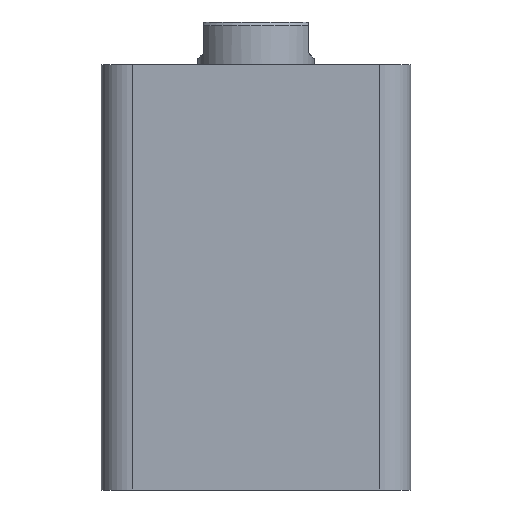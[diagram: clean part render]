
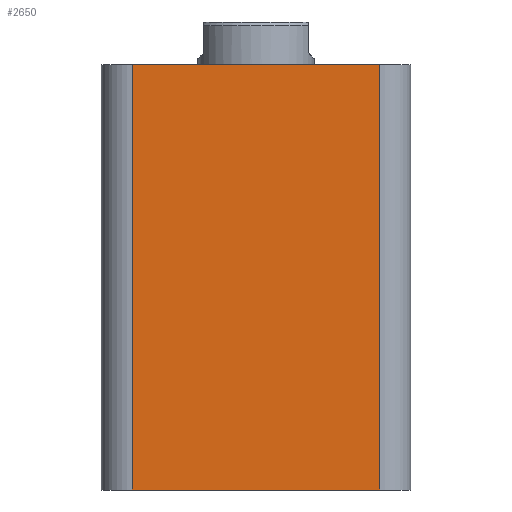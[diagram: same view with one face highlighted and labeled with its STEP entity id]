
A CAD part, front view. The second image highlights one B-rep face of the part: STEP entity #2650.
In plain terms, the highlighted planar face has unit normal (0, -1, 0).
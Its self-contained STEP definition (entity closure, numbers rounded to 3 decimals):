
#63 = EDGE_CURVE ( 'NONE', #876, #1492, #559, .T. ) ;
#64 = EDGE_CURVE ( 'NONE', #876, #881, #557, .T. ) ;
#65 = EDGE_CURVE ( 'NONE', #881, #1471, #565, .T. ) ;
#195 = EDGE_CURVE ( 'NONE', #1471, #1492, #527, .T. ) ;
#413 = AXIS2_PLACEMENT_3D ( 'NONE', #2139, #2127, #2126 ) ;
#524 = VECTOR ( 'NONE', #1936, 1000. ) ;
#527 = LINE ( 'NONE', #1950, #524 ) ;
#552 = VECTOR ( 'NONE', #938, 1000. ) ;
#554 = VECTOR ( 'NONE', #939, 1000. ) ;
#556 = VECTOR ( 'NONE', #945, 1000. ) ;
#557 = LINE ( 'NONE', #944, #554 ) ;
#559 = LINE ( 'NONE', #948, #556 ) ;
#565 = LINE ( 'NONE', #1006, #552 ) ;
#876 = VERTEX_POINT ( 'NONE', #1749 ) ;
#881 = VERTEX_POINT ( 'NONE', #1821 ) ;
#938 = DIRECTION ( 'NONE',  ( 1., 0., 0. ) ) ;
#939 = DIRECTION ( 'NONE',  ( 0., 0., -1. ) ) ;
#944 = CARTESIAN_POINT ( 'NONE',  ( -32., -40., 110. ) ) ;
#945 = DIRECTION ( 'NONE',  ( 1., 0., 0. ) ) ;
#948 = CARTESIAN_POINT ( 'NONE',  ( -40., -40., 110. ) ) ;
#1006 = CARTESIAN_POINT ( 'NONE',  ( -40., -40., 0. ) ) ;
#1311 = EDGE_LOOP ( 'NONE', ( #1381, #1392, #1349, #1377 ) ) ;
#1349 = ORIENTED_EDGE ( 'NONE', *, *, #65, .T. ) ;
#1377 = ORIENTED_EDGE ( 'NONE', *, *, #195, .T. ) ;
#1381 = ORIENTED_EDGE ( 'NONE', *, *, #63, .F. ) ;
#1392 = ORIENTED_EDGE ( 'NONE', *, *, #64, .T. ) ;
#1471 = VERTEX_POINT ( 'NONE', #2341 ) ;
#1492 = VERTEX_POINT ( 'NONE', #2338 ) ;
#1749 = CARTESIAN_POINT ( 'NONE',  ( -32., -40., 110. ) ) ;
#1821 = CARTESIAN_POINT ( 'NONE',  ( -32., -40., 0. ) ) ;
#1936 = DIRECTION ( 'NONE',  ( 0., 0., 1. ) ) ;
#1950 = CARTESIAN_POINT ( 'NONE',  ( 32., -40., 110. ) ) ;
#2126 = DIRECTION ( 'NONE',  ( 0., 0., 1. ) ) ;
#2127 = DIRECTION ( 'NONE',  ( 0., 1., 0. ) ) ;
#2129 = PLANE ( 'NONE',  #413 ) ;
#2139 = CARTESIAN_POINT ( 'NONE',  ( -40., -40., 110. ) ) ;
#2338 = CARTESIAN_POINT ( 'NONE',  ( 32., -40., 110. ) ) ;
#2341 = CARTESIAN_POINT ( 'NONE',  ( 32., -40., 0. ) ) ;
#2412 = FACE_OUTER_BOUND ( 'NONE', #1311, .T. ) ;
#2650 = ADVANCED_FACE ( 'NONE', ( #2412 ), #2129, .F. ) ;
